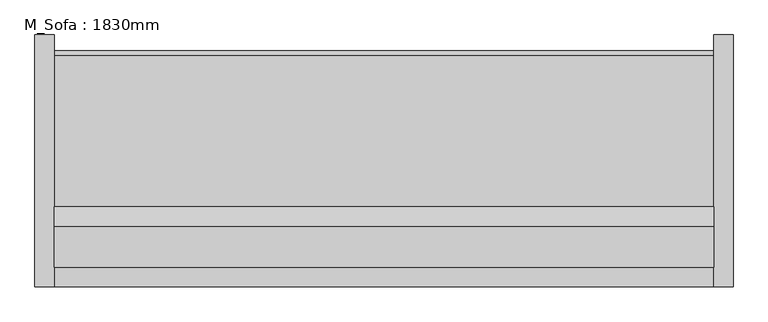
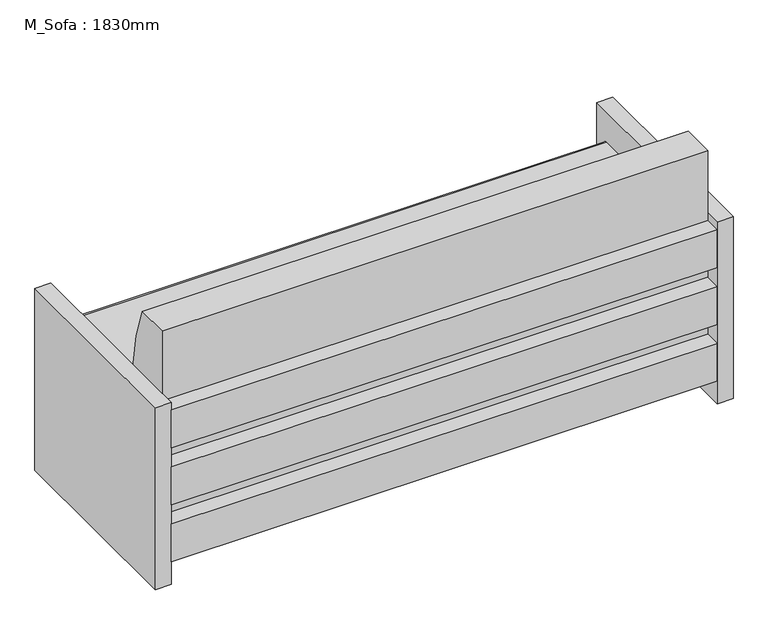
"""IFC4 building model written with IfcOpenShell, lengths in millimetres: furniture geometry, M_Sofa : 1830mm."""

from ifc_helpers import new_model, si_unit, point, frame, frame_2d, origin, origin_with_axes, place, context, project, spatial, polyline, circle_curve, trimmed, segment, composite_curve, outline, extrude, source, transform, mapped, element, save


def m_sofa_1830mm_3da2e71b(model_context):
    return source(origin(), model_context, "Body", "SweptSolid", [
        extrude(outline(polyline([(-793.8295082, -425.5540984), (934.5704918, -425.5540984), (934.5704918, -476.3540984), (-793.8295082, -476.3540984), (-793.8295082, -425.5540984)])), frame((0.0, 0.0, 457.2), z_axis=(0.0, 0.0, 1.0), x_axis=(1.0, 0.0, 0.0)), (0.0, 0.0, 1.0), 127.0),
        extrude(outline(polyline([(-793.8295082, -425.5540984), (934.5704918, -425.5540984), (934.5704918, -476.3540984), (-793.8295082, -476.3540984), (-793.8295082, -425.5540984)])), frame((0.0, 0.0, 266.7), z_axis=(0.0, 0.0, 1.0), x_axis=(1.0, 0.0, 0.0)), (0.0, 0.0, 1.0), 127.0),
        extrude(outline(polyline([(-793.8295082, -425.5540984), (934.5704918, -425.5540984), (934.5704918, -476.3540984), (-793.8295082, -476.3540984), (-793.8295082, -425.5540984)])), frame((0.0, 0.0, 76.2), z_axis=(0.0, 0.0, 1.0), x_axis=(1.0, 0.0, 0.0)), (0.0, 0.0, 1.0), 127.0),
        extrude(outline(composite_curve([segment(polyline([(-266.165594, 508.8843804), (130.5747172, 508.8843804)]), True, "CONTINUOUS"), segment(trimmed(circle_curve(frame_2d((130.5747172, 496.1843804)), 12.7), [point((130.5747172, 508.8843804))], [point((143.2263899, 495.0775025))], False, "CARTESIAN"), True, "CONTINUOUS"), segment(polyline([(143.2263899, 495.0775025), (111.108343, 127.9665467), (-425.5540984, 127.9665467), (-425.5540984, 818.417924), (-317.2421635, 818.417924)]), True, "CONTINUOUS"), segment(trimmed(circle_curve(frame_2d((-922.296849, 559.5961108)), 658.0880666), [point((-317.2421635, 818.417924))], [point((-266.165594, 508.8843804))], False, "CARTESIAN"), True, "CONTINUOUS")], self_intersect=False)), frame((-793.8295082, 0.0, 0.0), z_axis=(1.0, 0.0, 0.0), x_axis=(0.0, 1.0, 0.0)), (0.0, 0.0, 1.0), 1728.4),
        extrude(outline(polyline([(-793.8295082, -476.3540984), (-844.6295082, -476.3540984), (-844.6295082, 184.0459016), (-793.8295082, 184.0459016), (-793.8295082, -476.3540984)])), origin_with_axes(), (0.0, 0.0, 1.0), 609.6),
        extrude(outline(polyline([(985.3704918, -476.3540984), (934.5704918, -476.3540984), (934.5704918, 184.0459016), (985.3704918, 184.0459016), (985.3704918, -476.3540984)])), origin_with_axes(), (0.0, 0.0, 1.0), 609.6),
    ])


if __name__ == "__main__":
    model = new_model("IFC4")
    model_context = context("Model", 3, world=origin())
    ifc_project = project(units=[si_unit("LENGTHUNIT", "METRE", prefix="MILLI")], contexts=[model_context])
    site = spatial("IfcSite", under=ifc_project)
    building = spatial("IfcBuilding", under=site)
    placement = place(None, origin())
    m_sofa_1830mm_shape = m_sofa_1830mm_3da2e71b(model_context)
    element("IfcFurniture", 1, ObjectType="M_Sofa : 1830mm", at=placement, inside=building, context=model_context, shape_type="MappedRepresentation", body=[
        mapped(m_sofa_1830mm_shape, transform((0.0, 0.0, 0.0), x_axis=(1.0, 0.0, 0.0), y_axis=(0.0, 1.0, 0.0), z_axis=(0.0, 0.0, 1.0))),
    ])
    save(model, "model.ifc")
